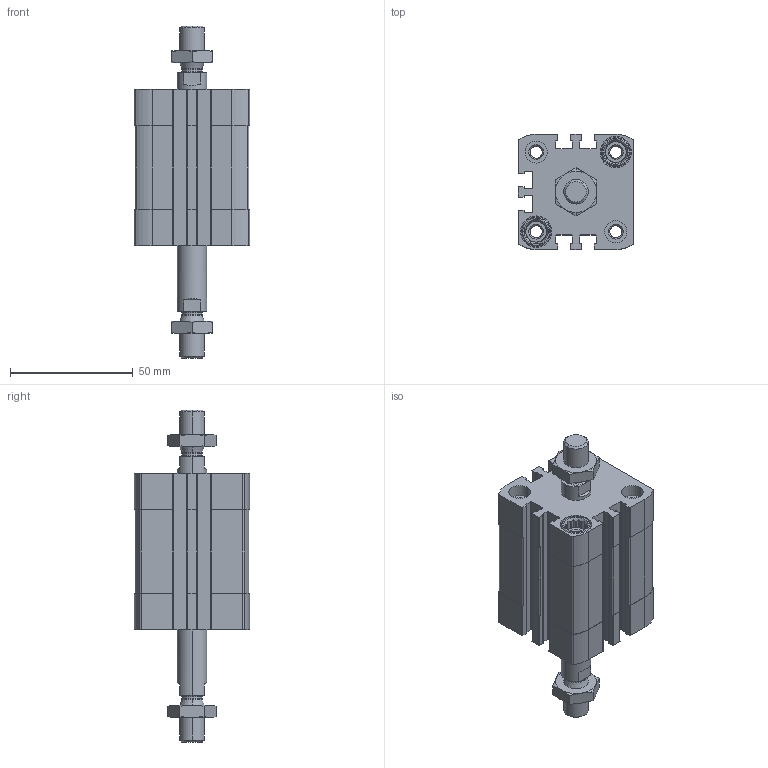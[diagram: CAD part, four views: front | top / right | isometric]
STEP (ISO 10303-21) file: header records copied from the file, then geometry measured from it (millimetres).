
FILE_DESCRIPTION (( 'STEP AP203' ), '1' );
FILE_NAME ('CCN32-20-P.STEP', '2020-06-22T18:46:33', ( '' ), ( '' ), 'SwSTEP 2.0', 'SolidWorks 2019', '' );
FILE_SCHEMA (( 'CONFIG_CONTROL_DESIGN' ));
Length unit declared in the file: millimetre
Products named in the file (1): CCN32-20-P
Bounding box: 47 x 47 x 135.5 mm (x, y, z)
Volume: 109890.9 mm3; surface area: 41844.3 mm2
Topology: 4 solids, 4 shells, 536 faces, 1416 edges, 920 vertices
Faces by surface type: plane 288, cylinder 180, cone 60, torus 8
Entity records: 17371 total; most frequent: CARTESIAN_POINT 3741, DIRECTION 2898, ORIENTED_EDGE 2832, EDGE_CURVE 1416, AXIS2_PLACEMENT_3D 1069, VERTEX_POINT 920, LINE 760, VECTOR 760
